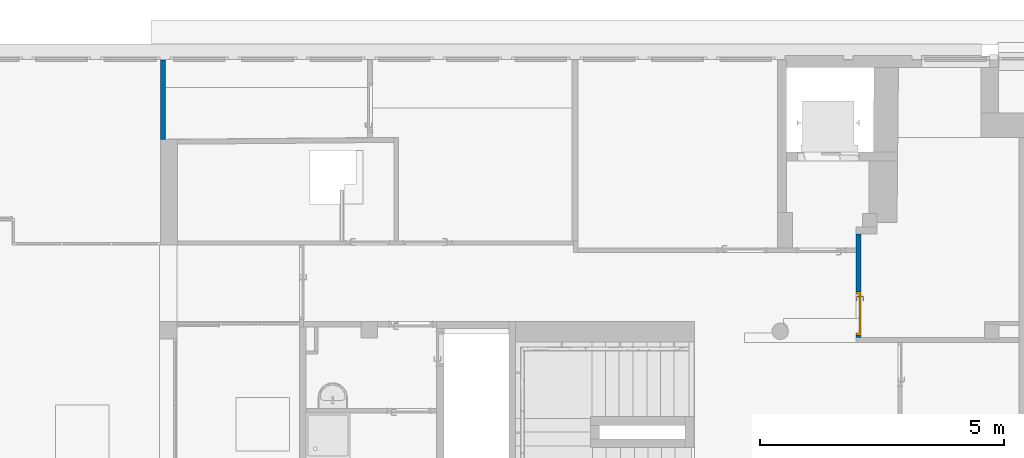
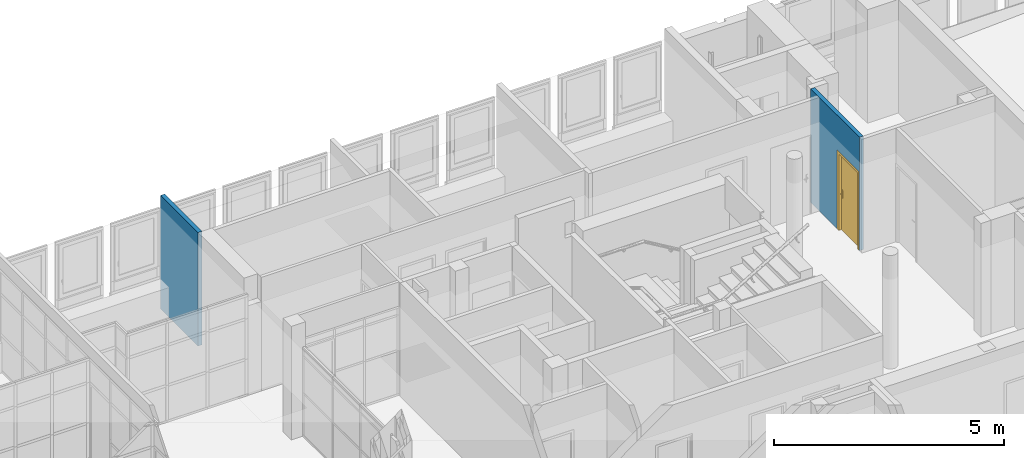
# One storey, part 50 of 97: 2 walls, 1 door, 1 opening.
"""IFC4 building model written with IfcOpenShell, lengths in metres."""

import ifcopenshell
import ifcopenshell.guid

model = None  # the IFC model being written
_history = None  # IfcOwnerHistory: only IFC2X3 demands one
_inside = {}  # id of a spatial element -> (the spatial element, [elements in it])
_under = {}  # id of a project, library or spatial element -> (it, [spatial elements below it])
_declared = {}  # id of a project -> (the project, [libraries it declares])
_typed = {}  # id of a type object -> (the type object, [elements of that type])
_made_of = {}  # id of a material, layer set ... -> (it, [elements and type objects made of it])


def new_model(schema):
    """Start an empty IFC model of exactly this schema.

    Asked for "IFC4X3", IfcOpenShell would pick the latest addendum, in which some entities
    have other attributes; the version numbers below select the first issue.
    IFC2X3 requires an IfcOwnerHistory on every rooted entity: one is made here for all.
    """
    global model, _history
    if schema == "IFC4X3":
        model = ifcopenshell.file(schema_version=(4, 3, 0, 0))
    else:
        model = ifcopenshell.file(schema=schema)
    _inside.clear()
    _under.clear()
    _declared.clear()
    _typed.clear()
    _made_of.clear()
    _history = None
    if model.schema == "IFC2X3":
        org = make("IfcOrganization", Name="unknown")
        user = make(
            "IfcPersonAndOrganization",
            ThePerson=make("IfcPerson", FamilyName="unknown"),
            TheOrganization=org,
        )
        app = make(
            "IfcApplication",
            ApplicationDeveloper=org,
            Version="unknown",
            ApplicationFullName="unknown",
            ApplicationIdentifier="unknown",
        )
        _history = make(
            "IfcOwnerHistory",
            OwningUser=user,
            OwningApplication=app,
            ChangeAction="ADDED",
            CreationDate=0,
        )
    return model


def make(cls, **values):
    """One entity of the class cls with the attributes given. An attribute that is None is left unset."""
    return model.create_entity(
        cls, **{name: value for name, value in values.items() if value is not None}
    )


def entity(cls, *values):
    """Any entity or typed value of the class cls, its attributes in the order of the schema. None: left unset."""
    e = model.create_entity(cls)
    for i, value in enumerate(values):
        if value is not None:
            e[i] = value
    return e


def rooted(cls, **values):
    """An entity with a GlobalId (a new one), such as an element, a storey or a relation."""
    return make(cls, GlobalId=ifcopenshell.guid.new(), OwnerHistory=_history, **values)


def si_unit(unit_type, name, prefix=None):
    """IfcSIUnit, for example si_unit("LENGTHUNIT", "METRE", prefix="MILLI")."""
    return make("IfcSIUnit", UnitType=unit_type, Prefix=prefix, Name=name)


def converted_unit(unit_type, name, factor, base, dimensions=None, offset=None):
    """IfcConversionBasedUnit, such as the inch: factor (a typed value) times the base unit."""
    return make(
        "IfcConversionBasedUnit"
        if offset is None
        else "IfcConversionBasedUnitWithOffset",
        ConversionOffset=offset,
        Dimensions=None
        if dimensions is None
        else entity("IfcDimensionalExponents", *dimensions),
        UnitType=unit_type,
        Name=name,
        ConversionFactor=make(
            "IfcMeasureWithUnit", ValueComponent=factor, UnitComponent=base
        ),
    )


def derived_unit(unit_type, elements):
    """IfcDerivedUnit: a product of units, each with its exponent."""
    return make(
        "IfcDerivedUnit",
        Elements=[
            make("IfcDerivedUnitElement", Unit=unit, Exponent=power)
            for unit, power in elements
        ],
        UnitType=unit_type,
    )


def assignment(units):
    """IfcUnitAssignment: the units of a project."""
    return None if units is None else make("IfcUnitAssignment", Units=units)


def point(xyz):
    """IfcCartesianPoint."""
    return None if xyz is None else make("IfcCartesianPoint", Coordinates=xyz)


def direction(xyz):
    """IfcDirection."""
    return None if xyz is None else make("IfcDirection", DirectionRatios=xyz)


def frame(location, z_axis=None, x_axis=None):
    """IfcAxis2Placement3D, a coordinate frame: its origin and axes. An axis left out is left unset."""
    return make(
        "IfcAxis2Placement3D",
        Location=point(location),
        Axis=direction(z_axis),
        RefDirection=direction(x_axis),
    )


def origin():
    """The frame at (0, 0, 0) with its axes left unset."""
    return frame((0.0, 0.0, 0.0))


def place(relative_to, where):
    """IfcLocalPlacement: puts the frame where relative to a parent placement (None: the world)."""
    return make(
        "IfcLocalPlacement", PlacementRelTo=relative_to, RelativePlacement=where
    )


def context(
    kind, dimensions, precision=None, world=None, true_north=None, identifier=None
):
    """IfcGeometricRepresentationContext, for example the 3D "Model" context."""
    return make(
        "IfcGeometricRepresentationContext",
        ContextIdentifier=identifier,
        ContextType=kind,
        CoordinateSpaceDimension=dimensions,
        Precision=precision,
        WorldCoordinateSystem=world,
        TrueNorth=true_north,
    )


def subcontext(parent, identifier, kind, view, scale=None):
    """IfcGeometricRepresentationSubContext, for example "Body" below "Model"."""
    return make(
        "IfcGeometricRepresentationSubContext",
        ContextIdentifier=identifier,
        ContextType=kind,
        ParentContext=parent,
        TargetScale=scale,
        TargetView=view,
    )


def project(units=None, contexts=None):
    """IfcProject with its units and contexts."""
    return rooted(
        "IfcProject",
        Name="project",
        RepresentationContexts=contexts,
        UnitsInContext=assignment(units),
    )


def spatial(cls, under=None, at=None, **own):
    """A site, building, storey or space (cls), placed at a placement, below another one or the project."""
    s = rooted(cls, ObjectPlacement=at, **own)
    if under is not None:
        _under.setdefault(under.id(), (under, []))[1].append(s)
    return s


def point_list(points):
    """IfcCartesianPointList2D or 3D."""
    cls = (
        "IfcCartesianPointList2D" if len(points[0]) == 2 else "IfcCartesianPointList3D"
    )
    return make(cls, CoordList=points)


def indexed_curve(points, segments=None, self_intersect=None):
    """IfcIndexedPolyCurve: lines and arcs through numbered points (the first is 1)."""
    return make(
        "IfcIndexedPolyCurve",
        Points=point_list(points),
        Segments=segments,
        SelfIntersect=self_intersect,
    )


def outline(outer, holes=None, kind="AREA"):
    """IfcArbitraryClosedProfileDef: a profile drawn as a closed curve; with holes, ...WithVoids."""
    if holes is None:
        return make("IfcArbitraryClosedProfileDef", ProfileType=kind, OuterCurve=outer)
    return make(
        "IfcArbitraryProfileDefWithVoids",
        ProfileType=kind,
        OuterCurve=outer,
        InnerCurves=holes,
    )


def extrude(swept, where, along, depth):
    """IfcExtrudedAreaSolid: the profile swept, set in the frame where, extruded along a direction by depth."""
    return make(
        "IfcExtrudedAreaSolid",
        SweptArea=swept,
        Position=where,
        ExtrudedDirection=direction(along),
        Depth=depth,
    )


def polygons(points, faces, closed=None, point_numbers=None):
    """IfcPolygonalFaceSet: a face is its outer loop, then its inner loops; points numbered from 1."""
    made = []
    for loops in faces:
        if len(loops) == 1:
            made.append(make("IfcIndexedPolygonalFace", CoordIndex=loops[0]))
        else:
            made.append(
                make(
                    "IfcIndexedPolygonalFaceWithVoids",
                    CoordIndex=loops[0],
                    InnerCoordIndices=loops[1:],
                )
            )
    return make(
        "IfcPolygonalFaceSet",
        Coordinates=point_list(points),
        Closed=closed,
        Faces=made,
        PnIndex=point_numbers,
    )


def shape(context_of_items, identifier, shape_type, items):
    """IfcShapeRepresentation: the items that make up one representation, for example the "Body"."""
    return make(
        "IfcShapeRepresentation",
        ContextOfItems=context_of_items,
        RepresentationIdentifier=identifier,
        RepresentationType=shape_type,
        Items=items,
    )


def source(mapping_origin, context_of_items, identifier, shape_type, items):
    """IfcRepresentationMap: a shape defined once, which mapped items show again and again."""
    return make(
        "IfcRepresentationMap",
        MappingOrigin=mapping_origin,
        MappedRepresentation=shape(context_of_items, identifier, shape_type, items),
    )


def transform(
    local_origin,
    x_axis=None,
    y_axis=None,
    z_axis=None,
    scale=None,
    scale2=None,
    scale3=None,
    uniform=True,
):
    """IfcCartesianTransformationOperator3D, or its non-uniform kind. x_axis, y_axis, z_axis: its Axis1, 2, 3."""
    if uniform:
        return make(
            "IfcCartesianTransformationOperator3D",
            Axis1=direction(x_axis),
            Axis2=direction(y_axis),
            LocalOrigin=point(local_origin),
            Scale=scale,
            Axis3=direction(z_axis),
        )
    return make(
        "IfcCartesianTransformationOperator3DnonUniform",
        Axis1=direction(x_axis),
        Axis2=direction(y_axis),
        LocalOrigin=point(local_origin),
        Scale=scale,
        Axis3=direction(z_axis),
        Scale2=scale2,
        Scale3=scale3,
    )


def mapped(mapping_source, mapping_target):
    """IfcMappedItem: shows the shape of a source again, moved by a transform."""
    return make(
        "IfcMappedItem", MappingSource=mapping_source, MappingTarget=mapping_target
    )


def material(Name=None, Category=None):
    """IfcMaterial."""
    return make("IfcMaterial", Name=Name, Category=Category)


def material_list(materials):
    """IfcMaterialList."""
    return make("IfcMaterialList", Materials=materials)


def layer(
    of_material, thickness, ventilated=None, Name=None, Category=None, Priority=None
):
    """IfcMaterialLayer: one layer of a wall or slab, of a material (None: an air gap)."""
    return make(
        "IfcMaterialLayer",
        Material=of_material,
        LayerThickness=thickness,
        IsVentilated=ventilated,
        Name=Name,
        Category=Category,
        Priority=Priority,
    )


def layer_set(layers, Name=None):
    """IfcMaterialLayerSet."""
    return make("IfcMaterialLayerSet", MaterialLayers=layers, LayerSetName=Name)


def constituent(of_material, Name=None, Category=None, fraction=None):
    """IfcMaterialConstituent: one of the materials an element consists of."""
    return make(
        "IfcMaterialConstituent",
        Name=Name,
        Material=of_material,
        Fraction=fraction,
        Category=Category,
    )


def constituent_set(constituents=None, Name=None):
    """IfcMaterialConstituentSet."""
    return make(
        "IfcMaterialConstituentSet", Name=Name, MaterialConstituents=constituents
    )


def made_of(thing, what):
    """Note that an element or type object is made of a material, layer set ...; save() writes the relation."""
    if what is not None:
        _made_of.setdefault(what.id(), (what, []))[1].append(thing)
    return thing


def type_object(cls, material=None, **own):
    """A type object (cls), such as IfcWallType, which elements share."""
    return made_of(rooted(cls, **own), material)


def type_shapes(of_type, sources):
    """Give a type object the sources (RepresentationMaps) that its elements show as mapped items."""
    of_type.RepresentationMaps = sources


def element(
    cls,
    number,
    at=None,
    inside=None,
    cuts=None,
    type_object=None,
    material=None,
    context=None,
    identifier="Body",
    shape_type=None,
    held_by="IfcProductDefinitionShape",
    body=None,
    shapes=None,
    **own,
):
    """One element of the class cls, such as IfcWall. Its Tag is "e" and its number.

    at: its placement. inside: the storey or other place that contains it. cuts: it is an
    opening in that element (IfcRelVoidsElement). A single representation is given by context,
    identifier, shape_type and body (its items); several are given by shapes. held_by: the class
    of the entity that holds the representations. save() writes the other relations.
    """
    e = rooted(cls, Tag="e%d" % number, ObjectPlacement=at, **own)
    if body is not None:
        shapes = [shape(context, identifier, shape_type, body)]
    if shapes is not None:
        e.Representation = make(held_by, Representations=shapes)
    if inside is not None:
        _inside.setdefault(inside.id(), (inside, []))[1].append(e)
    if cuts is not None:
        rooted(
            "IfcRelVoidsElement", RelatingBuildingElement=cuts, RelatedOpeningElement=e
        )
    if type_object is not None:
        _typed.setdefault(type_object.id(), (type_object, []))[1].append(e)
    return made_of(e, material)


def fill(opening, filler):
    """IfcRelFillsElement: the door or window that sits in an opening."""
    return rooted(
        "IfcRelFillsElement",
        RelatingOpeningElement=opening,
        RelatedBuildingElement=filler,
    )


def aggregate(whole, parts):
    """IfcRelAggregates: a whole, such as a stair, and the parts it consists of."""
    return rooted("IfcRelAggregates", RelatingObject=whole, RelatedObjects=parts)


def save(model, path):
    """Write the relations noted so far, then the file.

    IfcRelAggregates (storeys below a building ...), IfcRelContainedInSpatialStructure (elements
    in a storey), IfcRelDefinesByType, IfcRelAssociatesMaterial and IfcRelDeclares: one each for
    every whole, place, type object, material and project.
    """
    for whole, parts in _under.values():
        aggregate(whole, parts)
    for where, things in _inside.values():
        rooted(
            "IfcRelContainedInSpatialStructure",
            RelatedElements=things,
            RelatingStructure=where,
        )
    for kind, things in _typed.values():
        rooted("IfcRelDefinesByType", RelatedObjects=things, RelatingType=kind)
    for what, things in _made_of.values():
        rooted("IfcRelAssociatesMaterial", RelatedObjects=things, RelatingMaterial=what)
    for by, libraries in _declared.values():
        rooted("IfcRelDeclares", RelatingContext=by, RelatedDefinitions=libraries)
    model.write(path)


model = new_model("IFC4")

# Units and contexts
model_context = context("Model", 3, precision=1e-05, world=origin(), true_north=direction((6.12303176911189e-17, 1.0)))
body_context = subcontext(model_context, "Body", "Model", "MODEL_VIEW")
ifc_project = project(units=[si_unit("LENGTHUNIT", "METRE"), si_unit("AREAUNIT", "SQUARE_METRE"), si_unit("VOLUMEUNIT", "CUBIC_METRE"), converted_unit("PLANEANGLEUNIT", "DEGREE", entity("IfcRatioMeasure", 0.0174532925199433), si_unit("PLANEANGLEUNIT", "RADIAN"), dimensions=[0, 0, 0, 0, 0, 0, 0]), si_unit("MASSUNIT", "GRAM", prefix="KILO"), derived_unit("MASSDENSITYUNIT", [(si_unit("MASSUNIT", "GRAM", prefix="KILO"), 1), (si_unit("LENGTHUNIT", "METRE"), -3)]), derived_unit("MOMENTOFINERTIAUNIT", [(si_unit("LENGTHUNIT", "METRE"), 4)]), si_unit("TIMEUNIT", "SECOND"), si_unit("FREQUENCYUNIT", "HERTZ"), si_unit("THERMODYNAMICTEMPERATUREUNIT", "DEGREE_CELSIUS"), derived_unit("THERMALTRANSMITTANCEUNIT", [(si_unit("MASSUNIT", "GRAM", prefix="KILO"), 1), (si_unit("THERMODYNAMICTEMPERATUREUNIT", "KELVIN"), -1), (si_unit("TIMEUNIT", "SECOND"), -3)]), derived_unit("VOLUMETRICFLOWRATEUNIT", [(si_unit("LENGTHUNIT", "METRE"), 3), (si_unit("TIMEUNIT", "SECOND"), -1)]), si_unit("ELECTRICCURRENTUNIT", "AMPERE"), si_unit("ELECTRICVOLTAGEUNIT", "VOLT"), si_unit("POWERUNIT", "WATT"), si_unit("FORCEUNIT", "NEWTON", prefix="KILO"), si_unit("ILLUMINANCEUNIT", "LUX"), si_unit("LUMINOUSFLUXUNIT", "LUMEN"), si_unit("LUMINOUSINTENSITYUNIT", "CANDELA"), derived_unit("USERDEFINED", [(si_unit("MASSUNIT", "GRAM", prefix="KILO"), -1), (si_unit("LENGTHUNIT", "METRE"), -2), (si_unit("TIMEUNIT", "SECOND"), 3), (si_unit("LUMINOUSFLUXUNIT", "LUMEN"), 1)]), derived_unit("LINEARVELOCITYUNIT", [(si_unit("LENGTHUNIT", "METRE"), 1), (si_unit("TIMEUNIT", "SECOND"), -1)]), si_unit("PRESSUREUNIT", "PASCAL"), derived_unit("USERDEFINED", [(si_unit("LENGTHUNIT", "METRE"), -2), (si_unit("MASSUNIT", "GRAM", prefix="KILO"), 1), (si_unit("TIMEUNIT", "SECOND"), -2)]), derived_unit("LINEARFORCEUNIT", [(si_unit("MASSUNIT", "GRAM", prefix="KILO"), 1), (si_unit("LENGTHUNIT", "METRE"), 1), (si_unit("TIMEUNIT", "SECOND"), -2), (si_unit("LENGTHUNIT", "METRE"), -1)]), derived_unit("PLANARFORCEUNIT", [(si_unit("MASSUNIT", "GRAM", prefix="KILO"), 1), (si_unit("LENGTHUNIT", "METRE"), 1), (si_unit("TIMEUNIT", "SECOND"), -2), (si_unit("LENGTHUNIT", "METRE"), -2)])], contexts=[model_context])

# Site, building, storey
site_placement = place(None, origin())
site = spatial("IfcSite", under=ifc_project, at=site_placement, Name="Default", CompositionType="ELEMENT")
building_placement = place(site_placement, origin())
building = spatial("IfcBuilding", under=site, at=building_placement, Name="HOTEL CONSULAIRE BOULOGNE SUR MER", CompositionType="ELEMENT")
storey_placement = place(building_placement, frame((0.0, 0.0, 3.62152697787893)))
storey = spatial("IfcBuildingStorey", under=building, at=storey_placement, Name="Niveau 1", CompositionType="ELEMENT", Elevation=3.62152697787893)

# Wall
ifc_material_1 = material(Name="Mur par défaut", Category="Divers")
ifc_layer = layer(ifc_material_1, 0.1, Name="Mur par défaut", Category="Divers")
ifc_layer_set = layer_set([ifc_layer], Name="Mur de base:Générique - Int. 100 mm")
wall_type = type_object("IfcWallType", Name="Mur de base:Générique - Int. 100 mm", PredefinedType="NOTDEFINED", material=ifc_layer_set)
wall_1_placement = place(storey_placement, frame((-5.45977317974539, -11.7124660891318, 0.0), z_axis=(0.0, 0.0, 1.0), x_axis=(0.0, 1.0, 0.0)))
element("IfcWall", 1, at=wall_1_placement, inside=storey, type_object=wall_type, material=ifc_layer_set, Name="Mur de base:Générique - Int. 100 mm", ObjectType="Mur de base:Générique - Int. 100 mm", PredefinedType="NOTDEFINED", context=body_context, shape_type="SweptSolid", body=[
    extrude(outline(indexed_curve([(1.62783373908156, -0.049999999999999), (1.62783373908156, 0.050000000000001), (1.62679755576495, 0.050000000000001), (1.25714192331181, 0.0500000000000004), (-7.98889181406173e-17, 0.0500000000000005), (0.000843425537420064, -0.0499999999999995), (1.25714192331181, -0.0499999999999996), (1.62679755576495, -0.049999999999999), (1.62783373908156, -0.049999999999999)], self_intersect=False)), origin(), (0.0, 0.0, 1.0), 3.01021454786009),
])

# Wall, opening, door
wall_2_placement = place(storey_placement, frame((8.78563829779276, -15.770909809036, 0.0), z_axis=(0.0, 0.0, 1.0), x_axis=(0.0, 1.0, 0.0)))
wall_2 = element("IfcWall", 2, at=wall_2_placement, inside=storey, type_object=wall_type, material=ifc_layer_set, Name="Mur de base:Générique - Int. 100 mm", ObjectType="Mur de base:Générique - Int. 100 mm", PredefinedType="NOTDEFINED", context=body_context, shape_type="Tessellation", body=[
    polygons([(2.11939116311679, -0.0500000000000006, 0.0), (0.941999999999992, -0.0500000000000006, 0.0), (0.941999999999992, 0.0499999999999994, 0.0), (1.74012581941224, 0.0499999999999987, 0.0), (1.84012581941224, 0.0499999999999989, 0.0), (2.11939116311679, 0.0499999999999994, 0.0), (2.11939116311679, -0.0500000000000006, 3.01021454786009), (0.0, -0.0500000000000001, 3.01021454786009), (0.0, -0.0500000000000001, 0.0), (0.0419999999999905, -0.0500000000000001, 0.0), (0.0419999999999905, -0.0500000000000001, 2.075), (0.941999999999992, -0.0500000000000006, 2.075), (0.0, 0.0499999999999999, 3.01021454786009), (1.74012581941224, 0.0499999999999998, 3.01021454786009), (1.84012581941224, 0.05, 3.01021454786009), (2.11939116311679, 0.0499999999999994, 3.01021454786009), (0.941999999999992, 0.0499999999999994, 2.075), (0.0419999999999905, 0.0499999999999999, 2.075), (0.0419999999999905, 0.0499999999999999, 0.0), (0.0, 0.0499999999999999, 0.0)], [[[4, 5, 6, 1, 2, 3]], [[12, 11, 18, 17]], [[10, 9, 20, 19]], [[9, 10, 11, 12, 2, 1, 7, 8]], [[5, 4, 3, 17, 18, 19, 20, 13, 14, 15, 16, 6]], [[8, 7, 16, 15, 14, 13]], [[13, 20, 9, 8]], [[2, 12, 17, 3]], [[7, 1, 6, 16]], [[11, 10, 19, 18]]], closed=True),
])
opening_placement = place(wall_2_placement, frame((0.941999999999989, 0.0499999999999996, 0.0)))
opening = element("IfcOpeningElement", 3, at=opening_placement, cuts=wall_2, Name="Int. Simple:PP (0.83m x 2.04m):1", ObjectType="Opening", PredefinedType="OPENING", context=body_context, shape_type="SweptSolid", body=[
    extrude(outline(indexed_curve([(0.0, 0.9), (0.0, -9.43394704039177e-31), (2.075, -9.43394704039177e-31), (2.075, 0.9), (0.0, 0.9)], self_intersect=False)), frame((0.0, 0.0, 0.0), z_axis=(0.0, -1.0, 0.0), x_axis=(0.0, 0.0, 1.0)), (0.0, 0.0, 1.0), 0.1),
])
ifc_material_2 = material(Name="Finition Peinture - Blanc satiné", Category="Peinture")
ifc_constituent_1 = constituent(ifc_material_2, Name="Finition Peinture - Blanc satiné", Category="Matériaux")
ifc_material_3 = material(Name="Bois - Panneau de porte", Category="Bois")
ifc_constituent_2 = constituent(ifc_material_3, Name="Bois - Panneau de porte", Category="Matériaux")
ifc_material_4 = material(Name="Bois - Cadre de porte", Category="Bois")
ifc_constituent_3 = constituent(ifc_material_4, Name="Bois - Cadre de porte", Category="Matériaux")
ifc_constituent_set = constituent_set(constituents=[ifc_constituent_1, ifc_constituent_2, ifc_constituent_3], Name="MaterialConstituentSet")
ifc_material_list = material_list([ifc_material_4, ifc_material_3, ifc_material_4, ifc_material_2])
door_type = type_object("IfcDoorType", Name="Int. Simple:PP (0.83m x 2.04m)", OperationType="NOTDEFINED", PredefinedType="DOOR", material=ifc_material_list)
shared_shape = source(origin(), body_context, "Body", "Tessellation", [
    polygons([(0.895000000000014, -0.00500000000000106, 0.870000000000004), (0.895000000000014, -0.00500000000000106, 1.08), (0.885352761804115, -0.00500000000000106, 1.08399601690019), (0.875000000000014, -0.00500000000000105, 1.08535898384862), (0.864647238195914, -0.00500000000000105, 1.08399601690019), (0.855000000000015, -0.00500000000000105, 1.08), (0.855000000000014, -0.00500000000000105, 0.870000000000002), (0.864647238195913, -0.00500000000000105, 0.866003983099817), (0.875000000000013, -0.00500000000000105, 0.86464101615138), (0.885352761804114, -0.00500000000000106, 0.866003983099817), (0.895000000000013, -1.06594733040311e-15, 0.870000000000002), (0.885352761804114, -1.06594733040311e-15, 0.866003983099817), (0.875000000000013, -1.05748743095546e-15, 0.86464101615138), (0.864647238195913, -1.05748743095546e-15, 0.866003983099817), (0.855000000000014, -1.04902753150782e-15, 0.870000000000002), (0.855000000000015, -1.04902753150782e-15, 1.08), (0.864647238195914, -1.05748743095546e-15, 1.08399601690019), (0.875000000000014, -1.05748743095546e-15, 1.08535898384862), (0.885352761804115, -1.06594733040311e-15, 1.08399601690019), (0.895000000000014, -1.06594733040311e-15, 1.08)], [[[1, 2, 3, 4, 5, 6, 7, 8, 9, 10]], [[20, 11, 12, 13, 14, 15, 16, 17, 18, 19]], [[10, 12, 11, 1]], [[9, 13, 12, 10]], [[8, 14, 13, 9]], [[8, 7, 15, 14]], [[15, 7, 6, 16]], [[5, 17, 16, 6]], [[4, 18, 17, 5]], [[3, 19, 18, 4]], [[3, 2, 20, 19]], [[11, 20, 2, 1]]], closed=True),
    polygons([(0.855000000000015, 0.0399999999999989, 1.08), (0.855000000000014, 0.0399999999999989, 0.870000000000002), (0.864647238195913, 0.0399999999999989, 0.866003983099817), (0.875000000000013, 0.0399999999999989, 0.86464101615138), (0.885352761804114, 0.0399999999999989, 0.866003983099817), (0.895000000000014, 0.0399999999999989, 0.870000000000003), (0.895000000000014, 0.0399999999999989, 1.08), (0.885352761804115, 0.0399999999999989, 1.08399601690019), (0.875000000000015, 0.0399999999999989, 1.08535898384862), (0.864647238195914, 0.0399999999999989, 1.08399601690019), (0.855000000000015, 0.0449999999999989, 1.08), (0.864647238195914, 0.0449999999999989, 1.08399601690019), (0.875000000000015, 0.0449999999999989, 1.08535898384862), (0.885352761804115, 0.0449999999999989, 1.08399601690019), (0.895000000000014, 0.0449999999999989, 1.08), (0.895000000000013, 0.0449999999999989, 0.870000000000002), (0.885352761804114, 0.0449999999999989, 0.866003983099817), (0.875000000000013, 0.0449999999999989, 0.86464101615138), (0.864647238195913, 0.0449999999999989, 0.866003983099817), (0.855000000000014, 0.0449999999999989, 0.870000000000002)], [[[6, 7, 8, 9, 10, 1, 2, 3, 4, 5]], [[13, 14, 15, 16, 17, 18, 19, 20, 11, 12]], [[10, 12, 11, 1]], [[9, 13, 12, 10]], [[8, 14, 13, 9]], [[8, 7, 15, 14]], [[16, 15, 7, 6]], [[5, 17, 16, 6]], [[4, 18, 17, 5]], [[3, 19, 18, 4]], [[3, 2, 20, 19]], [[20, 2, 1, 11]]], closed=True),
    polygons([(0.881000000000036, -0.00500000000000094, 1.00699999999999), (0.881000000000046, -0.00500000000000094, 0.992999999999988), (0.877025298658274, -0.00500000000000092, 0.99221955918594), (0.872974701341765, -0.0050000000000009, 0.992219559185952), (0.868999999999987, -0.00500000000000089, 0.993000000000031), (0.868999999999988, -0.00500000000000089, 1.007), (0.872974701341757, -0.0050000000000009, 1.00778044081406), (0.877025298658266, -0.00500000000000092, 1.00778044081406), (0.868999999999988, -0.0276803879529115, 1.007), (0.872974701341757, -0.0293267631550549, 1.00778044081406), (0.877025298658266, -0.0310045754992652, 1.00778044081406), (0.881000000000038, -0.0326509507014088, 1.007), (0.868999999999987, -0.0276803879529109, 0.993000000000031), (0.881000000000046, -0.0326509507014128, 0.992999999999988), (0.877025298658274, -0.0310045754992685, 0.99221955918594), (0.872974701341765, -0.0293267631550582, 0.992219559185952), (0.85765222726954, -0.0390281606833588, 1.007), (0.859298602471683, -0.0430028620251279, 1.00778044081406), (0.860976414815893, -0.0470534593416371, 1.00778044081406), (0.862622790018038, -0.051028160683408, 1.007), (0.857652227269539, -0.0390281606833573, 0.993000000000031), (0.862622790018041, -0.0510281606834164, 0.992999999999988), (0.860976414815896, -0.0470534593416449, 0.99221955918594), (0.859298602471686, -0.0430028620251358, 0.992219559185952), (0.774981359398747, -0.0510281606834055, 1.007), (0.774981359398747, -0.0470534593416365, 1.00778044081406), (0.774981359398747, -0.0430028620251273, 1.00778044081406), (0.774981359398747, -0.0390281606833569, 1.00699999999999), (0.774981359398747, -0.0390281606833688, 0.993000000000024), (0.774981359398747, -0.0430028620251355, 0.992219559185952), (0.774981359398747, -0.0470534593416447, 0.99221955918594), (0.774981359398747, -0.0510281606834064, 0.992999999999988), (0.822692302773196, -0.051028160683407, 1.007), (0.81713998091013, -0.045028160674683, 1.0078786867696), (0.816316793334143, -0.039028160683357, 1.007), (0.822692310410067, -0.0510281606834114, 0.992999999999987), (0.817139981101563, -0.0450281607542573, 0.992121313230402), (0.816316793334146, -0.0390281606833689, 0.993000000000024)], [[[7, 8, 1, 2, 3, 4, 5, 6]], [[17, 21, 38, 29, 28, 35]], [[1, 8, 11, 12]], [[8, 7, 10, 18, 19, 11]], [[7, 6, 9, 10]], [[13, 9, 6, 5]], [[25, 26, 27, 28, 29, 30, 31, 32]], [[4, 16, 13, 5]], [[4, 3, 15, 23, 24, 16]], [[2, 14, 15, 3]], [[12, 14, 2, 1]], [[12, 11, 19, 20]], [[10, 9, 17, 18]], [[21, 17, 9, 13]], [[13, 16, 24, 21]], [[15, 14, 22, 23]], [[20, 22, 14, 12]], [[34, 26, 33]], [[33, 26, 25]], [[33, 20, 19]], [[18, 35, 34]], [[35, 18, 17]], [[28, 27, 35]], [[34, 27, 26]], [[34, 35, 27]], [[34, 33, 19]], [[18, 34, 19]], [[37, 30, 38]], [[31, 37, 36]], [[24, 38, 21]], [[30, 29, 38]], [[31, 36, 32]], [[36, 23, 22]], [[37, 23, 36]], [[37, 24, 23]], [[37, 38, 24]], [[30, 37, 31]], [[22, 20, 33, 25, 32, 36]]], closed=True),
    polygons([(0.868999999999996, 0.0449999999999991, 0.993000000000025), (0.872974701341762, 0.0449999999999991, 0.992219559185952), (0.877025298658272, 0.0449999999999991, 0.99221955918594), (0.881000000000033, 0.044999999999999, 0.992999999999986), (0.881000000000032, 0.044999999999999, 1.007), (0.877025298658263, 0.0449999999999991, 1.00778044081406), (0.872974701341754, 0.0449999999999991, 1.00778044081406), (0.868999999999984, 0.0449999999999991, 1.007), (0.868999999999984, 0.067485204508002, 1.007), (0.868999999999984, 0.0674852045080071, 0.993000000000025), (0.881000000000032, 0.0724557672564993, 1.007), (0.877025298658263, 0.070809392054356, 1.00778044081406), (0.872974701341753, 0.0691315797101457, 1.00778044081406), (0.881000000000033, 0.0724557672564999, 0.992999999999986), (0.872974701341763, 0.0691315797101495, 0.992219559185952), (0.877025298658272, 0.0708093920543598, 0.99221955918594), (0.857514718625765, 0.0789704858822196, 1.007), (0.857514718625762, 0.0789704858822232, 0.993000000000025), (0.862485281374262, 0.0909704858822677, 1.007), (0.860838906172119, 0.0869957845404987, 1.00778044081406), (0.859161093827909, 0.0829451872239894, 1.00778044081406), (0.862485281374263, 0.0909704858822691, 0.992999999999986), (0.859161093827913, 0.0829451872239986, 0.992219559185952), (0.860838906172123, 0.0869957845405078, 0.99221955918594), (0.77495421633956, 0.0789704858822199, 0.993000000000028), (0.77495421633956, 0.0789704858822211, 1.007), (0.77495421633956, 0.0829451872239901, 1.00778044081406), (0.77495421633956, 0.0869957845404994, 1.00778044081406), (0.77495421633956, 0.0909704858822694, 1.007), (0.77495421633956, 0.0909704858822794, 0.992999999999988), (0.77495421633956, 0.086995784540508, 0.99221955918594), (0.77495421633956, 0.0829451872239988, 0.992219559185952), (0.822554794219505, 0.0909704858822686, 1.007), (0.817057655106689, 0.0849704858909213, 1.0078786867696), (0.816234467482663, 0.0789704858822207, 1.007), (0.822554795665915, 0.0909704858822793, 0.992999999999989), (0.817057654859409, 0.0849704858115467, 0.992121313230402), (0.816234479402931, 0.0789704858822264, 0.993000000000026)], [[[2, 3, 4, 5, 6, 7, 8, 1]], [[18, 17, 35, 26, 25, 38]], [[9, 10, 1, 8]], [[27, 28, 29, 30, 31, 32, 25, 26]], [[7, 13, 9, 8]], [[7, 6, 12, 20, 21, 13]], [[5, 11, 12, 6]], [[11, 5, 4, 14]], [[4, 3, 16, 14]], [[3, 2, 15, 23, 24, 16]], [[2, 1, 10, 15]], [[17, 18, 10, 9]], [[9, 13, 21, 17]], [[11, 19, 20, 12]], [[22, 19, 11, 14]], [[14, 16, 24, 22]], [[15, 10, 18, 23]], [[34, 27, 35]], [[28, 34, 33]], [[21, 35, 17]], [[27, 26, 35]], [[28, 33, 29]], [[33, 20, 19]], [[34, 20, 33]], [[34, 21, 20]], [[34, 35, 21]], [[27, 34, 28]], [[19, 22, 36, 30, 29, 33]], [[37, 31, 36]], [[36, 31, 30]], [[36, 22, 24]], [[23, 38, 37]], [[38, 23, 18]], [[25, 32, 38]], [[37, 32, 31]], [[37, 38, 32]], [[37, 36, 24]], [[23, 37, 24]]], closed=True),
    polygons([(0.935000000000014, 0.04, 2.04), (0.935000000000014, 0.04, 0.0), (0.105000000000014, 0.04, 0.0), (0.105000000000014, 0.04, 2.04), (0.935000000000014, 3.38395977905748e-17, 2.04), (0.105000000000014, 3.38395977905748e-17, 2.04), (0.105000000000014, 3.38395977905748e-17, 0.0), (0.935000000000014, 3.38395977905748e-17, 0.0)], [[[3, 4, 1, 2]], [[5, 6, 7, 8]], [[5, 1, 4, 6]], [[6, 4, 3, 7]], [[8, 7, 3, 2]], [[8, 2, 1, 5]]], closed=True),
    polygons([(0.970000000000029, 0.0, 0.0), (0.935000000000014, 0.0, 0.0), (0.935000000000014, 0.040000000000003, 0.0), (0.920000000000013, 0.040000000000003, 0.0), (0.920000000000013, 0.100000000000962, 0.0), (0.970000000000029, 0.100000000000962, 0.0), (0.970000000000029, 0.100000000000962, 2.07500000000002), (0.970000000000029, 0.0, 2.07500000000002), (0.920000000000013, 0.100000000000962, 2.025), (0.120000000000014, 0.100000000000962, 2.025), (0.120000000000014, 0.100000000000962, 6.02669015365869e-24), (0.0699999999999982, 0.100000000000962, 9.23443718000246e-25), (0.0699999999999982, 0.100000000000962, 2.07500000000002), (0.920000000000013, 0.040000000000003, 2.025), (0.935000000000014, 0.040000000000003, 2.04), (0.105000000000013, 0.040000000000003, 2.04), (0.105000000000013, 0.040000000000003, 1.51399294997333e-24), (0.120000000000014, 0.040000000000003, 1.99209609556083e-25), (0.120000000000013, 0.040000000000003, 2.025), (0.935000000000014, 0.0, 2.04), (0.0699999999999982, 0.0, 2.07500000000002), (0.0699999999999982, 0.0, 1.81925185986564e-24), (0.105000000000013, 0.0, 3.40121094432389e-24), (0.105000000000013, 0.0, 2.04)], [[[5, 6, 1, 2, 3, 4]], [[17, 23, 22, 12, 11, 18]], [[19, 10, 9, 14]], [[24, 16, 15, 20]], [[7, 8, 1, 6]], [[18, 11, 10, 19]], [[17, 16, 24, 23]], [[9, 10, 11, 12, 13, 7, 6, 5]], [[14, 9, 5, 4]], [[15, 3, 2, 20]], [[12, 22, 21, 13]], [[19, 14, 4, 3, 15, 16, 17, 18]], [[24, 20, 2, 1, 8, 21, 22, 23]], [[13, 21, 8, 7]]], closed=True),
    polygons([(0.955000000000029, 0.100000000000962, 1.35358391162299e-16), (0.955000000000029, 0.105000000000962, 1.35358391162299e-16), (0.985000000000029, 0.105000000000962, 1.35358391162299e-16), (0.985000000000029, 0.100000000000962, 1.35358391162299e-16), (0.985000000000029, 0.100000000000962, 2.09000000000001), (0.0550000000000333, 0.100000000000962, 2.09000000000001), (0.0550000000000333, 0.100000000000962, -5.44393448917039e-24), (0.0850000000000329, 0.100000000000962, 5.09144898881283e-24), (0.0850000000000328, 0.100000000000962, 2.06000000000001), (0.955000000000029, 0.100000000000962, 2.06000000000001), (0.985000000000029, 0.105000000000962, 2.09000000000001), (0.955000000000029, 0.105000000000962, 2.06000000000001), (0.0850000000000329, 0.105000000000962, 2.06000000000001), (0.0850000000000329, 0.105000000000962, -1.89153776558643e-24), (0.055000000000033, 0.105000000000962, 5.03766794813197e-24), (0.0550000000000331, 0.105000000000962, 2.09000000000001)], [[[2, 3, 4, 1]], [[7, 15, 14, 8]], [[13, 12, 10, 9]], [[9, 10, 1, 4, 5, 6, 7, 8]], [[11, 5, 4, 3]], [[8, 14, 13, 9]], [[12, 13, 14, 15, 16, 11, 3, 2]], [[10, 12, 2, 1]], [[15, 7, 6, 16]], [[16, 6, 5, 11]]], closed=True),
    polygons([(0.955000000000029, -0.005, 1.35358391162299e-16), (0.955000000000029, 0.0, 1.35358391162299e-16), (0.985000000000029, 0.0, 1.35358391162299e-16), (0.985000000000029, -0.005, 1.35358391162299e-16), (0.0850000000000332, -0.005, -1.35358391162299e-16), (0.0550000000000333, -0.005, -1.35358391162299e-16), (0.055000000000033, 0.0, -1.35358391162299e-16), (0.0850000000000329, 0.0, -1.35358391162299e-16), (0.985000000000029, -0.005, 2.09000000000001), (0.0550000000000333, -0.005, 2.09000000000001), (0.0850000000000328, -0.005, 2.06000000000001), (0.955000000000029, -0.005, 2.06000000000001), (0.985000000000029, 0.0, 2.09000000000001), (0.955000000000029, 0.0, 2.06000000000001), (0.0850000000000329, 0.0, 2.06000000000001), (0.0550000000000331, 0.0, 2.09000000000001)], [[[2, 3, 4, 1]], [[6, 7, 8, 5]], [[11, 15, 14, 12]], [[11, 12, 1, 4, 9, 10, 6, 5]], [[13, 9, 4, 3]], [[5, 8, 15, 11]], [[14, 15, 8, 7, 16, 13, 3, 2]], [[12, 14, 2, 1]], [[7, 6, 10, 16]], [[16, 10, 9, 13]]], closed=True),
])
type_shapes(door_type, [shared_shape])
door_placement = place(opening_placement, frame((-0.970000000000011, -0.0999999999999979, 0.0)))
door = element("IfcDoor", 4, at=door_placement, inside=storey, type_object=door_type, material=ifc_constituent_set, Name="Int. Simple:PP (0.83m x 2.04m)", ObjectType="Int. Simple:PP (0.83m x 2.04m)", OperationType="NOTDEFINED", OverallHeight=2.075, OverallWidth=0.900000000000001, PredefinedType="DOOR", context=body_context, shape_type="MappedRepresentation", body=[
    mapped(shared_shape, transform((0.0, 0.0, 0.0), scale=1.0)),
])
fill(opening, door)

save(model, "model.ifc")
